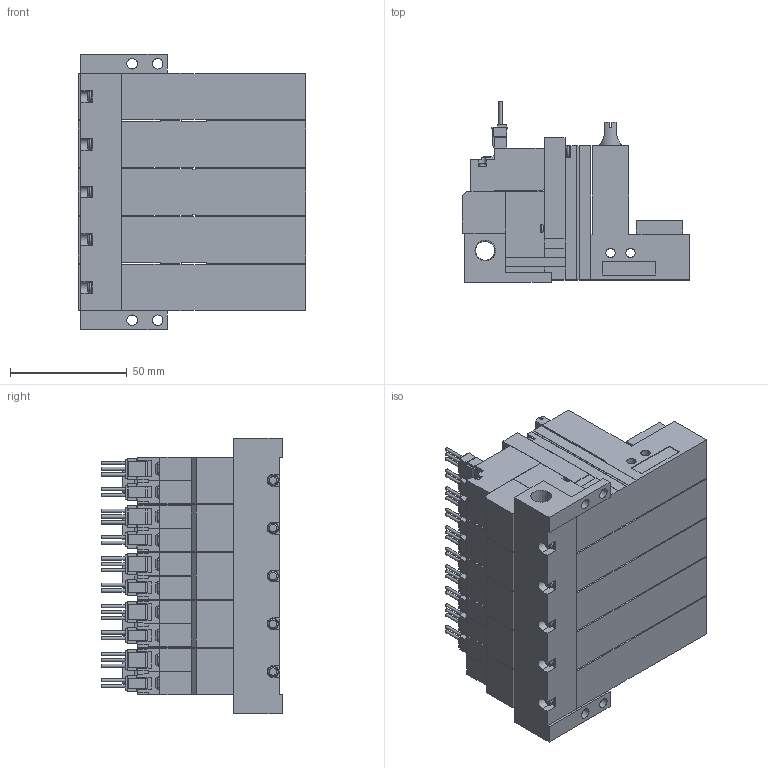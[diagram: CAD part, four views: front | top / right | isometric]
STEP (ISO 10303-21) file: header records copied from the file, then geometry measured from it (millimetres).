
FILE_DESCRIPTION(('STEP AP203'),'1');
FILE_NAME('ZLC5WLR505.stp','2025-02-19T00:43:18',(' '),(' '),'Spatial InterOp 3D',' ',' ');
FILE_SCHEMA(('CONFIG_CONTROL_DESIGN'));
Length unit declared in the file: millimetre
Products named in the file (5): BMC22M※※※※ZLC5WLR505; Solenoid valve W; Pressure sensor ZLC; Unit LC; Base MR50R
Assembly tree (16 placements, depth 2):
  BMC22M※※※※ZLC5WLR505
    Solenoid valve W  x5
    Pressure sensor ZLC  x5
    Unit LC  x5
    Base MR50R
Bounding box: 97.6 x 77.45 x 118 mm (x, y, z)
Volume: 451248.4 mm3; surface area: 120396.2 mm2
Topology: 16 solids, 16 shells, 1836 faces, 4984 edges, 3275 vertices
Faces by surface type: plane 1584, cylinder 190, cone 37, torus 25
Full cylindrical faces by diameter (mm): 1.4 x25, 2.5 x5, 3 x20, 3.5 x20, 3.6 x5, 4 x10, 4.134 x5, 4.5 x4, 5.2 x5, 6 x5, 6.6 x5, 8.279 x1
Entity records: 13976 total; most frequent: CARTESIAN_POINT 2696, DIRECTION 2209, ORIENTED_EDGE 2190, EDGE_CURVE 1095, LINE 897, VECTOR 897, VERTEX_POINT 762, AXIS2_PLACEMENT_3D 656
